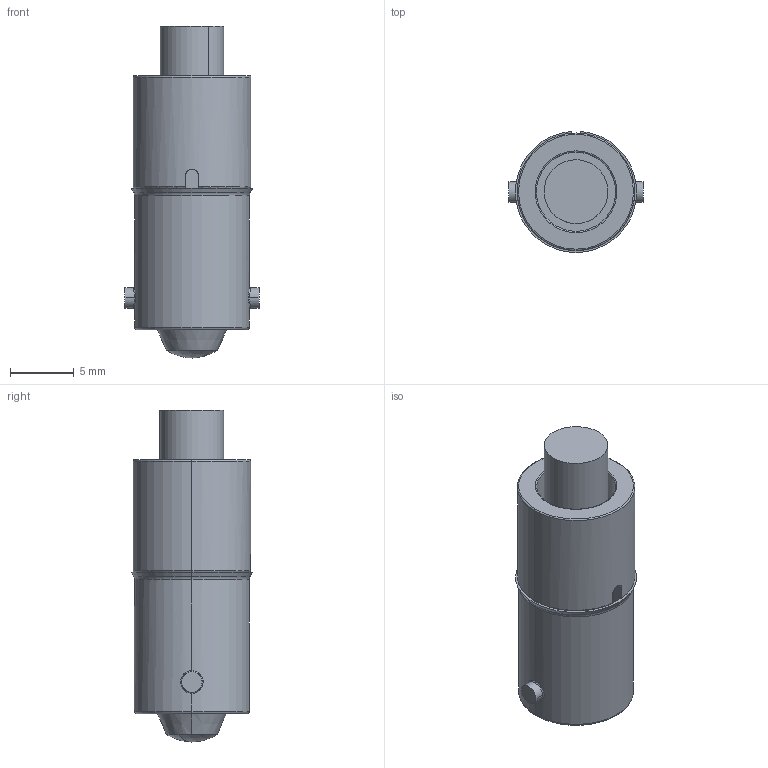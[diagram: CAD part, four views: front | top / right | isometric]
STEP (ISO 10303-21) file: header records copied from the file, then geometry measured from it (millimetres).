
FILE_DESCRIPTION (( 'STEP AP203' ), '1' );
FILE_NAME ('255 Series.STEP', '2016-08-04T09:20:37', ( '' ), ( '' ), 'SwSTEP 2.0', 'SolidWorks 2016', '' );
FILE_SCHEMA (( 'CONFIG_CONTROL_DESIGN' ));
Length unit declared in the file: millimetre
Products named in the file (6): Part6^255series; MBCAP-SLOTTED; 255 Series; COM7902_Bivar; LED_501_1.5LEGS-FT-DF; Solder1_4mm Diam
Assembly tree (5 placements, depth 2):
  255 Series
    MBCAP-SLOTTED
    COM7902_Bivar
    Solder1_4mm Diam
    LED_501_1.5LEGS-FT-DF
    Part6^255series
Bounding box: 10.5 x 9.49 x 26 mm (x, y, z)
Volume: 787.1 mm3; surface area: 1750.8 mm2
Topology: 5 solids, 5 shells, 134 faces, 321 edges, 201 vertices
Faces by surface type: plane 49, cylinder 36, torus 21, bspline 10, cone 10, sphere 8
Entity records: 5476 total; most frequent: CARTESIAN_POINT 1778, DIRECTION 659, ORIENTED_EDGE 642, EDGE_CURVE 321, AXIS2_PLACEMENT_3D 269, VERTEX_POINT 201, EDGE_LOOP 142, CIRCLE 137
